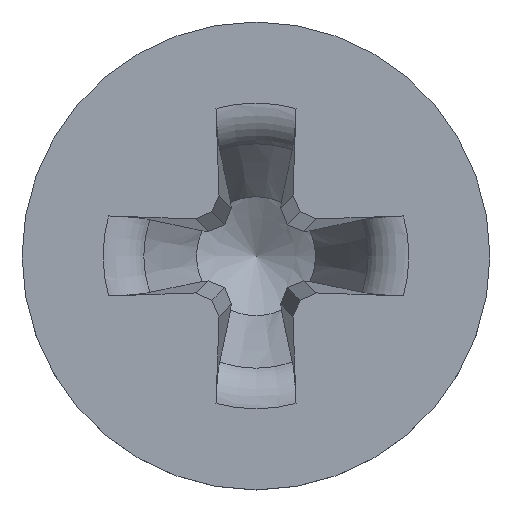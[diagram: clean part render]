
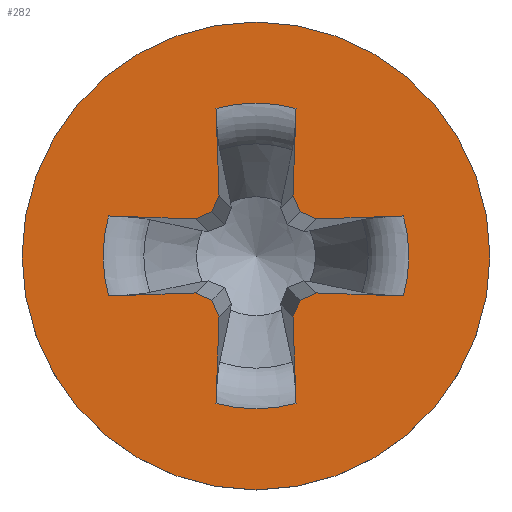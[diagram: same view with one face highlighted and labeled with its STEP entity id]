
A CAD part, top view. The second image highlights one B-rep face of the part: STEP entity #282.
In plain terms, the highlighted planar face has unit normal (0, 0, 1).
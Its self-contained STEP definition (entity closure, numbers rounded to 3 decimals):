
#86=LINE('',#3209,#160);
#87=LINE('',#3214,#161);
#88=LINE('',#3216,#162);
#89=LINE('',#3218,#163);
#90=LINE('',#3220,#164);
#91=LINE('',#3224,#165);
#92=LINE('',#3226,#166);
#93=LINE('',#3228,#167);
#94=LINE('',#3230,#168);
#95=LINE('',#3234,#169);
#96=LINE('',#3236,#170);
#97=LINE('',#3238,#171);
#98=LINE('',#3240,#172);
#99=LINE('',#3244,#173);
#100=LINE('',#3246,#174);
#101=LINE('',#3248,#175);
#160=VECTOR('',#1561,1.);
#161=VECTOR('',#1564,1.);
#162=VECTOR('',#1565,1.);
#163=VECTOR('',#1566,1.);
#164=VECTOR('',#1567,1.);
#165=VECTOR('',#1570,1.);
#166=VECTOR('',#1571,1.);
#167=VECTOR('',#1572,1.);
#168=VECTOR('',#1573,1.);
#169=VECTOR('',#1576,1.);
#170=VECTOR('',#1577,1.);
#171=VECTOR('',#1578,1.);
#172=VECTOR('',#1579,1.);
#173=VECTOR('',#1582,1.);
#174=VECTOR('',#1583,1.);
#175=VECTOR('',#1584,1.);
#235=PLANE('',#1495);
#262=FACE_BOUND('',#459,.T.);
#263=FACE_BOUND('',#460,.T.);
#282=ADVANCED_FACE('',(#262,#263),#235,.F.);
#459=EDGE_LOOP('',(#616,#617,#618,#619,#620,#621,#622,#623,#624,#625,#626,
#627,#628,#629,#630,#631,#632,#633,#634,#635));
#460=EDGE_LOOP('',(#636));
#550=CIRCLE('',#1490,1.633);
#551=CIRCLE('',#1491,1.633);
#552=CIRCLE('',#1492,1.633);
#553=CIRCLE('',#1493,1.633);
#554=CIRCLE('',#1494,2.5);
#616=ORIENTED_EDGE('',*,*,#1184,.F.);
#617=ORIENTED_EDGE('',*,*,#1185,.T.);
#618=ORIENTED_EDGE('',*,*,#1186,.F.);
#619=ORIENTED_EDGE('',*,*,#1187,.F.);
#620=ORIENTED_EDGE('',*,*,#1188,.F.);
#621=ORIENTED_EDGE('',*,*,#1189,.F.);
#622=ORIENTED_EDGE('',*,*,#1190,.T.);
#623=ORIENTED_EDGE('',*,*,#1191,.F.);
#624=ORIENTED_EDGE('',*,*,#1192,.F.);
#625=ORIENTED_EDGE('',*,*,#1193,.F.);
#626=ORIENTED_EDGE('',*,*,#1194,.F.);
#627=ORIENTED_EDGE('',*,*,#1195,.T.);
#628=ORIENTED_EDGE('',*,*,#1196,.F.);
#629=ORIENTED_EDGE('',*,*,#1197,.F.);
#630=ORIENTED_EDGE('',*,*,#1198,.F.);
#631=ORIENTED_EDGE('',*,*,#1199,.F.);
#632=ORIENTED_EDGE('',*,*,#1200,.T.);
#633=ORIENTED_EDGE('',*,*,#1201,.F.);
#634=ORIENTED_EDGE('',*,*,#1202,.F.);
#635=ORIENTED_EDGE('',*,*,#1203,.F.);
#636=ORIENTED_EDGE('',*,*,#1204,.F.);
#1041=VERTEX_POINT('',#3210);
#1042=VERTEX_POINT('',#3211);
#1043=VERTEX_POINT('',#3213);
#1044=VERTEX_POINT('',#3215);
#1045=VERTEX_POINT('',#3217);
#1046=VERTEX_POINT('',#3219);
#1047=VERTEX_POINT('',#3221);
#1048=VERTEX_POINT('',#3223);
#1049=VERTEX_POINT('',#3225);
#1050=VERTEX_POINT('',#3227);
#1051=VERTEX_POINT('',#3229);
#1052=VERTEX_POINT('',#3231);
#1053=VERTEX_POINT('',#3233);
#1054=VERTEX_POINT('',#3235);
#1055=VERTEX_POINT('',#3237);
#1056=VERTEX_POINT('',#3239);
#1057=VERTEX_POINT('',#3241);
#1058=VERTEX_POINT('',#3243);
#1059=VERTEX_POINT('',#3245);
#1060=VERTEX_POINT('',#3247);
#1061=VERTEX_POINT('',#3250);
#1184=EDGE_CURVE('',#1041,#1042,#86,.T.);
#1185=EDGE_CURVE('',#1041,#1043,#550,.T.);
#1186=EDGE_CURVE('',#1044,#1043,#87,.T.);
#1187=EDGE_CURVE('',#1045,#1044,#88,.T.);
#1188=EDGE_CURVE('',#1046,#1045,#89,.T.);
#1189=EDGE_CURVE('',#1047,#1046,#90,.T.);
#1190=EDGE_CURVE('',#1047,#1048,#551,.T.);
#1191=EDGE_CURVE('',#1049,#1048,#91,.T.);
#1192=EDGE_CURVE('',#1050,#1049,#92,.T.);
#1193=EDGE_CURVE('',#1051,#1050,#93,.T.);
#1194=EDGE_CURVE('',#1052,#1051,#94,.T.);
#1195=EDGE_CURVE('',#1052,#1053,#552,.T.);
#1196=EDGE_CURVE('',#1054,#1053,#95,.T.);
#1197=EDGE_CURVE('',#1055,#1054,#96,.T.);
#1198=EDGE_CURVE('',#1056,#1055,#97,.T.);
#1199=EDGE_CURVE('',#1057,#1056,#98,.T.);
#1200=EDGE_CURVE('',#1057,#1058,#553,.T.);
#1201=EDGE_CURVE('',#1059,#1058,#99,.T.);
#1202=EDGE_CURVE('',#1060,#1059,#100,.T.);
#1203=EDGE_CURVE('',#1042,#1060,#101,.T.);
#1204=EDGE_CURVE('',#1061,#1061,#554,.T.);
#1490=AXIS2_PLACEMENT_3D('',#3212,#1562,#1563);
#1491=AXIS2_PLACEMENT_3D('',#3222,#1568,#1569);
#1492=AXIS2_PLACEMENT_3D('',#3232,#1574,#1575);
#1493=AXIS2_PLACEMENT_3D('',#3242,#1580,#1581);
#1494=AXIS2_PLACEMENT_3D('',#3249,#1585,#1586);
#1495=AXIS2_PLACEMENT_3D('',#3251,#1587,#1588);
#1561=DIRECTION('',(-0.999,-0.035,0.));
#1562=DIRECTION('',(0.,0.,-1.));
#1563=DIRECTION('',(-1.,0.,0.));
#1564=DIRECTION('',(0.999,-0.035,0.));
#1565=DIRECTION('',(0.914,0.407,0.));
#1566=DIRECTION('',(0.407,0.914,0.));
#1567=DIRECTION('',(-0.035,0.999,0.));
#1568=DIRECTION('',(0.,0.,-1.));
#1569=DIRECTION('',(-1.,0.,0.));
#1570=DIRECTION('',(-0.035,-0.999,0.));
#1571=DIRECTION('',(0.407,-0.914,0.));
#1572=DIRECTION('',(0.914,-0.407,0.));
#1573=DIRECTION('',(0.999,0.035,0.));
#1574=DIRECTION('',(0.,0.,-1.));
#1575=DIRECTION('',(-1.,0.,0.));
#1576=DIRECTION('',(-0.999,0.035,0.));
#1577=DIRECTION('',(-0.914,-0.407,0.));
#1578=DIRECTION('',(-0.407,-0.914,0.));
#1579=DIRECTION('',(0.035,-0.999,0.));
#1580=DIRECTION('',(0.,0.,-1.));
#1581=DIRECTION('',(-1.,0.,0.));
#1582=DIRECTION('',(0.035,0.999,0.));
#1583=DIRECTION('',(-0.407,0.914,0.));
#1584=DIRECTION('',(-0.914,0.407,0.));
#1585=DIRECTION('',(0.,0.,-1.));
#1586=DIRECTION('',(-1.,0.,0.));
#1587=DIRECTION('',(0.,0.,-1.));
#1588=DIRECTION('',(-1.,0.,0.));
#3209=CARTESIAN_POINT('',(-0.013,0.372,2.065));
#3210=CARTESIAN_POINT('',(1.576,0.428,2.065));
#3211=CARTESIAN_POINT('',(0.648,0.395,2.065));
#3212=CARTESIAN_POINT('',(0.,0.,2.065));
#3213=CARTESIAN_POINT('',(1.576,-0.428,2.065));
#3214=CARTESIAN_POINT('',(-0.013,-0.372,2.065));
#3215=CARTESIAN_POINT('',(0.648,-0.395,2.065));
#3216=CARTESIAN_POINT('',(0.254,-0.571,2.065));
#3217=CARTESIAN_POINT('',(0.473,-0.473,2.065));
#3218=CARTESIAN_POINT('',(0.571,-0.254,2.065));
#3219=CARTESIAN_POINT('',(0.395,-0.648,2.065));
#3220=CARTESIAN_POINT('',(0.372,0.013,2.065));
#3221=CARTESIAN_POINT('',(0.428,-1.576,2.065));
#3222=CARTESIAN_POINT('',(0.,0.,2.065));
#3223=CARTESIAN_POINT('',(-0.428,-1.576,2.065));
#3224=CARTESIAN_POINT('',(-0.372,0.013,2.065));
#3225=CARTESIAN_POINT('',(-0.395,-0.648,2.065));
#3226=CARTESIAN_POINT('',(-0.571,-0.254,2.065));
#3227=CARTESIAN_POINT('',(-0.473,-0.473,2.065));
#3228=CARTESIAN_POINT('',(-0.254,-0.571,2.065));
#3229=CARTESIAN_POINT('',(-0.648,-0.395,2.065));
#3230=CARTESIAN_POINT('',(0.013,-0.372,2.065));
#3231=CARTESIAN_POINT('',(-1.576,-0.428,2.065));
#3232=CARTESIAN_POINT('',(0.,0.,2.065));
#3233=CARTESIAN_POINT('',(-1.576,0.428,2.065));
#3234=CARTESIAN_POINT('',(0.013,0.372,2.065));
#3235=CARTESIAN_POINT('',(-0.648,0.395,2.065));
#3236=CARTESIAN_POINT('',(-0.254,0.571,2.065));
#3237=CARTESIAN_POINT('',(-0.473,0.473,2.065));
#3238=CARTESIAN_POINT('',(-0.571,0.254,2.065));
#3239=CARTESIAN_POINT('',(-0.395,0.648,2.065));
#3240=CARTESIAN_POINT('',(-0.372,-0.013,2.065));
#3241=CARTESIAN_POINT('',(-0.428,1.576,2.065));
#3242=CARTESIAN_POINT('',(0.,0.,2.065));
#3243=CARTESIAN_POINT('',(0.428,1.576,2.065));
#3244=CARTESIAN_POINT('',(0.372,-0.013,2.065));
#3245=CARTESIAN_POINT('',(0.395,0.648,2.065));
#3246=CARTESIAN_POINT('',(0.571,0.254,2.065));
#3247=CARTESIAN_POINT('',(0.473,0.473,2.065));
#3248=CARTESIAN_POINT('',(0.254,0.571,2.065));
#3249=CARTESIAN_POINT('',(0.,0.,2.065));
#3250=CARTESIAN_POINT('',(-2.5,0.,2.065));
#3251=CARTESIAN_POINT('',(0.,0.,2.065));
